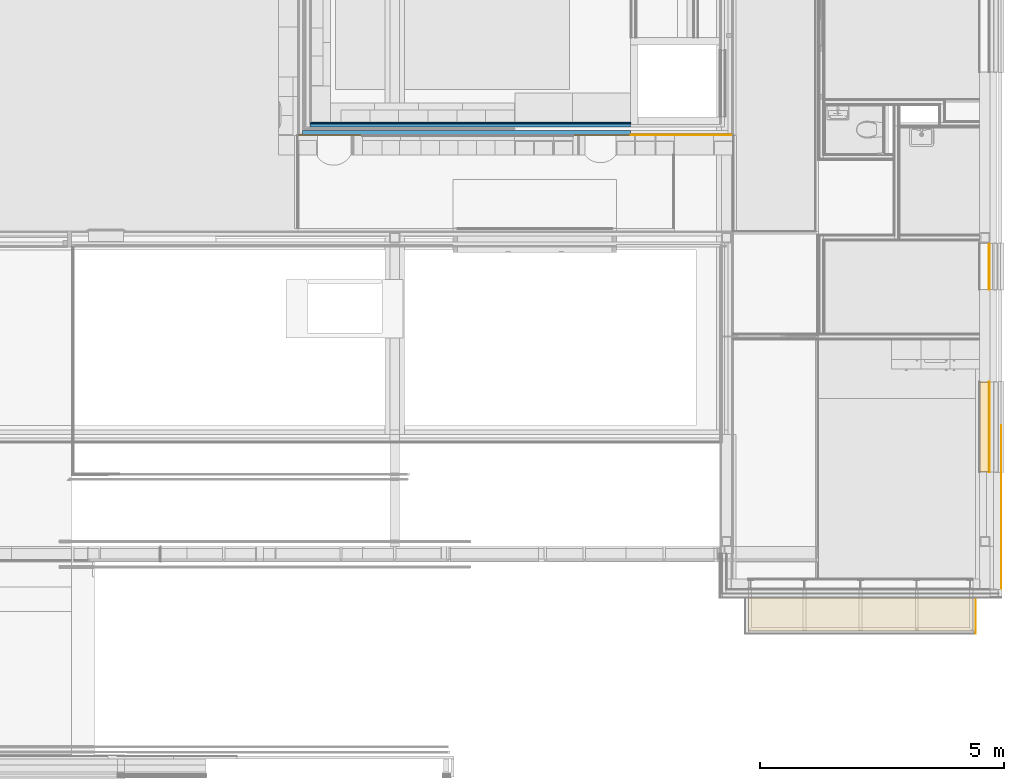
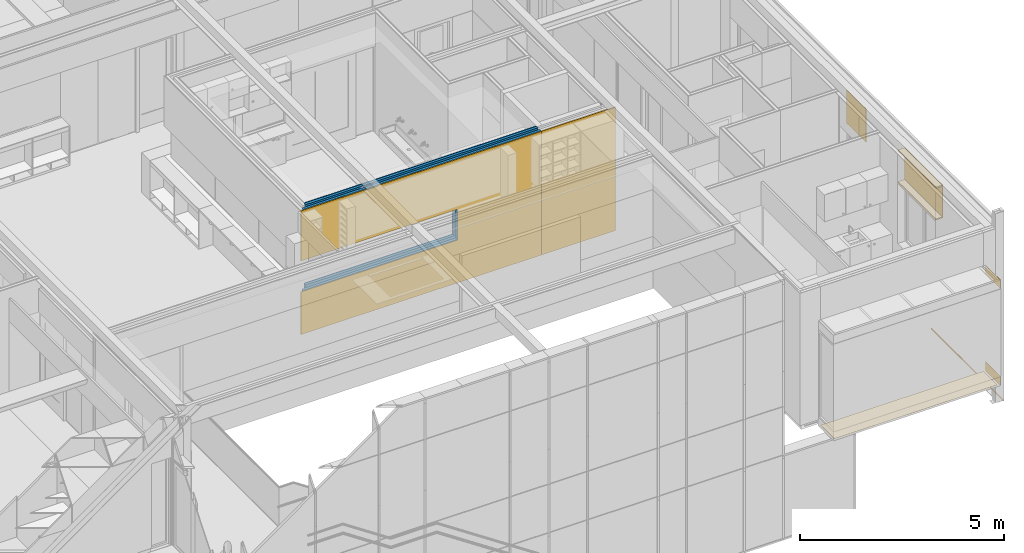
# One storey, part 103 of 137: 9 coverings, 4 building element parts, 4 openings, 7 elements without a shape of their own.
"""IFC2X3 building model written with IfcOpenShell, lengths in millimetres."""

import ifcopenshell
import ifcopenshell.guid

model = None  # the IFC model being written
_history = None  # IfcOwnerHistory: only IFC2X3 demands one
_inside = {}  # id of a spatial element -> (the spatial element, [elements in it])
_under = {}  # id of a project, library or spatial element -> (it, [spatial elements below it])
_declared = {}  # id of a project -> (the project, [libraries it declares])
_typed = {}  # id of a type object -> (the type object, [elements of that type])
_made_of = {}  # id of a material, layer set ... -> (it, [elements and type objects made of it])


def new_model(schema):
    """Start an empty IFC model of exactly this schema.

    Asked for "IFC4X3", IfcOpenShell would pick the latest addendum, in which some entities
    have other attributes; the version numbers below select the first issue.
    IFC2X3 requires an IfcOwnerHistory on every rooted entity: one is made here for all.
    """
    global model, _history
    if schema == "IFC4X3":
        model = ifcopenshell.file(schema_version=(4, 3, 0, 0))
    else:
        model = ifcopenshell.file(schema=schema)
    _inside.clear()
    _under.clear()
    _declared.clear()
    _typed.clear()
    _made_of.clear()
    _history = None
    if model.schema == "IFC2X3":
        org = make("IfcOrganization", Name="unknown")
        user = make(
            "IfcPersonAndOrganization",
            ThePerson=make("IfcPerson", FamilyName="unknown"),
            TheOrganization=org,
        )
        app = make(
            "IfcApplication",
            ApplicationDeveloper=org,
            Version="unknown",
            ApplicationFullName="unknown",
            ApplicationIdentifier="unknown",
        )
        _history = make(
            "IfcOwnerHistory",
            OwningUser=user,
            OwningApplication=app,
            ChangeAction="ADDED",
            CreationDate=0,
        )
    return model


def make(cls, **values):
    """One entity of the class cls with the attributes given. An attribute that is None is left unset."""
    return model.create_entity(
        cls, **{name: value for name, value in values.items() if value is not None}
    )


def entity(cls, *values):
    """Any entity or typed value of the class cls, its attributes in the order of the schema. None: left unset."""
    e = model.create_entity(cls)
    for i, value in enumerate(values):
        if value is not None:
            e[i] = value
    return e


def rooted(cls, **values):
    """An entity with a GlobalId (a new one), such as an element, a storey or a relation."""
    return make(cls, GlobalId=ifcopenshell.guid.new(), OwnerHistory=_history, **values)


def si_unit(unit_type, name, prefix=None):
    """IfcSIUnit, for example si_unit("LENGTHUNIT", "METRE", prefix="MILLI")."""
    return make("IfcSIUnit", UnitType=unit_type, Prefix=prefix, Name=name)


def converted_unit(unit_type, name, factor, base, dimensions=None, offset=None):
    """IfcConversionBasedUnit, such as the inch: factor (a typed value) times the base unit."""
    return make(
        "IfcConversionBasedUnit"
        if offset is None
        else "IfcConversionBasedUnitWithOffset",
        ConversionOffset=offset,
        Dimensions=None
        if dimensions is None
        else entity("IfcDimensionalExponents", *dimensions),
        UnitType=unit_type,
        Name=name,
        ConversionFactor=make(
            "IfcMeasureWithUnit", ValueComponent=factor, UnitComponent=base
        ),
    )


def derived_unit(unit_type, elements):
    """IfcDerivedUnit: a product of units, each with its exponent."""
    return make(
        "IfcDerivedUnit",
        Elements=[
            make("IfcDerivedUnitElement", Unit=unit, Exponent=power)
            for unit, power in elements
        ],
        UnitType=unit_type,
    )


def money_unit(currency):
    """IfcMonetaryUnit."""
    return make("IfcMonetaryUnit", Currency=currency)


def assignment(units):
    """IfcUnitAssignment: the units of a project."""
    return None if units is None else make("IfcUnitAssignment", Units=units)


def point(xyz):
    """IfcCartesianPoint."""
    return None if xyz is None else make("IfcCartesianPoint", Coordinates=xyz)


def direction(xyz):
    """IfcDirection."""
    return None if xyz is None else make("IfcDirection", DirectionRatios=xyz)


def frame(location, z_axis=None, x_axis=None):
    """IfcAxis2Placement3D, a coordinate frame: its origin and axes. An axis left out is left unset."""
    return make(
        "IfcAxis2Placement3D",
        Location=point(location),
        Axis=direction(z_axis),
        RefDirection=direction(x_axis),
    )


def origin_with_axes():
    """The frame at (0, 0, 0) with the z axis (0, 0, 1) and the x axis (1, 0, 0) written out."""
    return frame((0.0, 0.0, 0.0), z_axis=(0.0, 0.0, 1.0), x_axis=(1.0, 0.0, 0.0))


def place(relative_to, where):
    """IfcLocalPlacement: puts the frame where relative to a parent placement (None: the world)."""
    return make(
        "IfcLocalPlacement", PlacementRelTo=relative_to, RelativePlacement=where
    )


def context(
    kind, dimensions, precision=None, world=None, true_north=None, identifier=None
):
    """IfcGeometricRepresentationContext, for example the 3D "Model" context."""
    return make(
        "IfcGeometricRepresentationContext",
        ContextIdentifier=identifier,
        ContextType=kind,
        CoordinateSpaceDimension=dimensions,
        Precision=precision,
        WorldCoordinateSystem=world,
        TrueNorth=true_north,
    )


def subcontext(parent, identifier, kind, view, scale=None):
    """IfcGeometricRepresentationSubContext, for example "Body" below "Model"."""
    return make(
        "IfcGeometricRepresentationSubContext",
        ContextIdentifier=identifier,
        ContextType=kind,
        ParentContext=parent,
        TargetScale=scale,
        TargetView=view,
    )


def project(units=None, contexts=None):
    """IfcProject with its units and contexts."""
    return rooted(
        "IfcProject",
        Name="project",
        RepresentationContexts=contexts,
        UnitsInContext=assignment(units),
    )


def spatial(cls, under=None, at=None, **own):
    """A site, building, storey or space (cls), placed at a placement, below another one or the project."""
    s = rooted(cls, ObjectPlacement=at, **own)
    if under is not None:
        _under.setdefault(under.id(), (under, []))[1].append(s)
    return s


def faces_of(points, faces, orient=None, outer=None):
    """IfcFace entities. A face is a list of loops; a loop is a list of indices into points, from 0.

    orient and outer hold one flag for each loop. By default every Orientation is true, the
    first loop of a face is its IfcFaceOuterBound and the others are IfcFaceBound.
    """
    made = []
    for i, loops in enumerate(faces):
        bounds = []
        for j, loop in enumerate(loops):
            is_outer = j == 0 if outer is None else outer[i][j]
            bounds.append(
                make(
                    "IfcFaceOuterBound" if is_outer else "IfcFaceBound",
                    Bound=make("IfcPolyLoop", Polygon=[points[k] for k in loop]),
                    Orientation=True if orient is None else orient[i][j],
                )
            )
        made.append(make("IfcFace", Bounds=bounds))
    return made


def faceted_brep(points, faces, orient=None, outer=None, voids=None):
    """IfcFacetedBrep: a solid bounded by flat faces; with voids (closed shells), ...WithVoids."""
    shared = [point(p) for p in points]
    hull = make("IfcClosedShell", CfsFaces=faces_of(shared, faces, orient, outer))
    if voids is None:
        return make("IfcFacetedBrep", Outer=hull)
    return make(
        "IfcFacetedBrepWithVoids",
        Outer=hull,
        Voids=[
            make(cls, CfsFaces=faces_of(shared, fs, o, b)) for cls, fs, o, b in voids
        ],
    )


def shape(context_of_items, identifier, shape_type, items):
    """IfcShapeRepresentation: the items that make up one representation, for example the "Body"."""
    return make(
        "IfcShapeRepresentation",
        ContextOfItems=context_of_items,
        RepresentationIdentifier=identifier,
        RepresentationType=shape_type,
        Items=items,
    )


def material(Name=None, Category=None):
    """IfcMaterial."""
    return make("IfcMaterial", Name=Name, Category=Category)


def made_of(thing, what):
    """Note that an element or type object is made of a material, layer set ...; save() writes the relation."""
    if what is not None:
        _made_of.setdefault(what.id(), (what, []))[1].append(thing)
    return thing


def type_object(cls, material=None, **own):
    """A type object (cls), such as IfcWallType, which elements share."""
    return made_of(rooted(cls, **own), material)


def element(
    cls,
    number,
    at=None,
    inside=None,
    cuts=None,
    type_object=None,
    material=None,
    context=None,
    identifier="Body",
    shape_type=None,
    held_by="IfcProductDefinitionShape",
    body=None,
    shapes=None,
    **own,
):
    """One element of the class cls, such as IfcWall. Its Tag is "e" and its number.

    at: its placement. inside: the storey or other place that contains it. cuts: it is an
    opening in that element (IfcRelVoidsElement). A single representation is given by context,
    identifier, shape_type and body (its items); several are given by shapes. held_by: the class
    of the entity that holds the representations. save() writes the other relations.
    """
    e = rooted(cls, Tag="e%d" % number, ObjectPlacement=at, **own)
    if body is not None:
        shapes = [shape(context, identifier, shape_type, body)]
    if shapes is not None:
        e.Representation = make(held_by, Representations=shapes)
    if inside is not None:
        _inside.setdefault(inside.id(), (inside, []))[1].append(e)
    if cuts is not None:
        rooted(
            "IfcRelVoidsElement", RelatingBuildingElement=cuts, RelatedOpeningElement=e
        )
    if type_object is not None:
        _typed.setdefault(type_object.id(), (type_object, []))[1].append(e)
    return made_of(e, material)


def aggregate(whole, parts):
    """IfcRelAggregates: a whole, such as a stair, and the parts it consists of."""
    return rooted("IfcRelAggregates", RelatingObject=whole, RelatedObjects=parts)


def save(model, path):
    """Write the relations noted so far, then the file.

    IfcRelAggregates (storeys below a building ...), IfcRelContainedInSpatialStructure (elements
    in a storey), IfcRelDefinesByType, IfcRelAssociatesMaterial and IfcRelDeclares: one each for
    every whole, place, type object, material and project.
    """
    for whole, parts in _under.values():
        aggregate(whole, parts)
    for where, things in _inside.values():
        rooted(
            "IfcRelContainedInSpatialStructure",
            RelatedElements=things,
            RelatingStructure=where,
        )
    for kind, things in _typed.values():
        rooted("IfcRelDefinesByType", RelatedObjects=things, RelatingType=kind)
    for what, things in _made_of.values():
        rooted("IfcRelAssociatesMaterial", RelatedObjects=things, RelatingMaterial=what)
    for by, libraries in _declared.values():
        rooted("IfcRelDeclares", RelatingContext=by, RelatedDefinitions=libraries)
    model.write(path)


model = new_model("IFC2X3")

# Units and contexts
model_context = context("Model", 3, precision=0.01, world=origin_with_axes(), true_north=direction((0.0, 1.0)))
body_context = subcontext(model_context, "Body", "Model", "MODEL_VIEW")
ifc_project = project(units=[si_unit("LENGTHUNIT", "METRE", prefix="MILLI"), si_unit("AREAUNIT", "SQUARE_METRE"), si_unit("VOLUMEUNIT", "CUBIC_METRE"), converted_unit("PLANEANGLEUNIT", "DEGREE", entity("IfcPlaneAngleMeasure", 0.0174532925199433), si_unit("PLANEANGLEUNIT", "RADIAN"), dimensions=[0, 0, 0, 0, 0, 0, 0]), money_unit("EUR"), converted_unit("TIMEUNIT", "Year", entity("IfcTimeMeasure", 31556926.0), si_unit("TIMEUNIT", "SECOND"), dimensions=[0, 0, 1, 0, 0, 0, 0]), si_unit("MASSUNIT", "GRAM", prefix="KILO"), si_unit("THERMODYNAMICTEMPERATUREUNIT", "DEGREE_CELSIUS"), si_unit("LUMINOUSINTENSITYUNIT", "LUMEN"), si_unit("ENERGYUNIT", "JOULE", prefix="MEGA"), derived_unit("THERMALCONDUCTANCEUNIT", [(si_unit("POWERUNIT", "WATT"), 1), (si_unit("LENGTHUNIT", "METRE"), -1), (si_unit("THERMODYNAMICTEMPERATUREUNIT", "KELVIN"), -1)]), derived_unit("SPECIFICHEATCAPACITYUNIT", [(si_unit("ENERGYUNIT", "JOULE"), 1), (si_unit("MASSUNIT", "GRAM", prefix="KILO"), -1), (si_unit("THERMODYNAMICTEMPERATUREUNIT", "KELVIN"), -1)]), derived_unit("MASSDENSITYUNIT", [(si_unit("MASSUNIT", "GRAM", prefix="KILO"), 1), (si_unit("VOLUMEUNIT", "CUBIC_METRE"), -1)])], contexts=[model_context])

# Site, building, storey
site_placement = place(None, origin_with_axes())
site = spatial("IfcSite", under=ifc_project, at=site_placement, Name="Site", CompositionType="ELEMENT")
building_placement = place(site_placement, origin_with_axes())
building = spatial("IfcBuilding", under=site, at=building_placement, Name="Naam gebouw", CompositionType="ELEMENT")
storey_placement = place(building_placement, frame((0.0, 0.0, 3960.0), z_axis=(0.0, 0.0, 1.0), x_axis=(1.0, 0.0, 0.0)))
storey = spatial("IfcBuildingStorey", under=building, at=storey_placement, Name="1e verdieping", CompositionType="ELEMENT", Elevation=3960.0)

# Proxy, covering
building_element_proxy_type = type_object("IfcBuildingElementProxyType", Name="22 Metal stud 270 oregon pine 270", PredefinedType="NOTDEFINED")
proxy_1_placement = place(storey_placement, frame((24499.99903999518, 13039.99778166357, -100.0000000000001), z_axis=(0.0, 0.0, 1.0), x_axis=(-1.0, 0.0, 0.0)))
proxy_1 = element("IfcBuildingElementProxy", 1, at=proxy_1_placement, inside=storey, type_object=building_element_proxy_type, Name="_Wand-x")
ifc_material_1 = material(Name="Hout - Multiplex Oregon Pine")
covering_1_placement = place(proxy_1_placement, origin_with_axes())
covering_1 = element("IfcCovering", 2, at=covering_1_placement, material=ifc_material_1, Name="Hout - Multiplex Oregon Pine", PredefinedType="NOTDEFINED", context=body_context, shape_type="Brep", body=[
    faceted_brep([(94.99999999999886, 122.5000000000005, 3700.0), (94.99999999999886, 134.9999999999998, 3700.0), (-94.99999999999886, 134.9999999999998, 3700.0), (-94.99999999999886, 122.5000000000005, 3700.0), (94.99999999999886, 122.5000000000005, 3695.000029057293), (94.99999999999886, 134.9999999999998, 3695.000029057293), (-94.99999999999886, 134.9999999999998, 3695.000029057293), (-94.99999999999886, 122.5000000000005, 3695.000029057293)], [[[0, 1, 2, 3]], [[1, 0, 4, 5]], [[6, 2, 1, 5]], [[7, 3, 2, 6]], [[4, 0, 3, 7]], [[4, 7, 6, 5]]]),
    faceted_brep([(199.9999999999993, 122.5000000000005, 3695.000029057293), (199.9999999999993, 122.5000000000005, 3685.000029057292), (-122.4999999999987, 122.5000000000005, 3685.000029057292), (-122.4999999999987, 122.5000000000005, 0.0), (1964.999999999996, 122.5000000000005, 0.0), (1964.999999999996, 122.5000000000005, 3700.0), (100.9999999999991, 122.5000000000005, 3700.0), (100.9999999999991, 122.5000000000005, 3695.000029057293), (199.9999999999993, 134.9999999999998, 3695.000029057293), (199.9999999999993, 134.9999999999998, 3685.000029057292), (-122.4999999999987, 134.9999999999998, 3685.000029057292), (-122.4999999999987, 134.9999999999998, 0.0), (1964.999999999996, 134.9999999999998, 0.0), (1964.999999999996, 134.9999999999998, 3700.0), (100.9999999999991, 134.9999999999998, 3700.0), (100.9999999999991, 134.9999999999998, 3695.000029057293)], [[[0, 1, 2, 3, 4, 5, 6, 7]], [[1, 0, 8, 9]], [[10, 2, 1, 9]], [[2, 10, 11, 3]], [[11, 12, 4, 3]], [[13, 5, 4, 12]], [[14, 6, 5, 13]], [[7, 6, 14, 15]], [[0, 7, 15, 8]], [[15, 14, 13, 12, 11, 10, 9, 8]]]),
    faceted_brep([(-122.4999999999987, 134.9999999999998, 3695.000029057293), (-122.4999999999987, 122.5000000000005, 3695.000029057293), (-122.4999999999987, 122.5000000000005, 3700.0), (-122.4999999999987, 134.9999999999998, 3700.0), (-100.9999999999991, 122.5000000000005, 3695.000029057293), (-100.9999999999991, 134.9999999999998, 3695.000029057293), (-100.9999966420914, 122.5000000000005, 3700.0), (-100.9999966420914, 134.9999999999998, 3700.0)], [[[0, 1, 2, 3]], [[4, 1, 0, 5]], [[4, 6, 2, 1]], [[6, 7, 3, 2]], [[5, 0, 3, 7]], [[7, 6, 4, 5]]]),
])
aggregate(proxy_1, [covering_1])

# Proxy, openings, covering
proxy_2_placement = place(storey_placement, frame((22534.99903999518, 13039.99778166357, -100.0000000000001), z_axis=(0.0, 0.0, 1.0), x_axis=(-1.0, 0.0, 0.0)))
proxy_2 = element("IfcBuildingElementProxy", 3, at=proxy_2_placement, inside=storey, type_object=building_element_proxy_type, Name="_Wand-x")
opening_1_placement = place(proxy_2_placement, frame((5954.996010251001, 0.0, 1300.0), z_axis=(0.0, 0.0, 1.0), x_axis=(1.0, 0.0, 0.0)))
element("IfcOpeningElement", 4, at=opening_1_placement, cuts=proxy_2, Name="_D.04", context=body_context, shape_type="Brep", body=[
    faceted_brep([(-720.003588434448, 9.999999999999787, 0.0), (-720.003588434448, 9.999999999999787, 900.0000000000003), (-720.003588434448, 135.9999999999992, 900.0000000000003), (-720.003588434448, 135.9999999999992, 0.0), (-720.003588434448, -135.9999999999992, 0.0), (-720.003588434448, -135.9999999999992, 900.0000000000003), (865.0035884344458, 135.0000154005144, 900.0000000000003), (865.0035884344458, 135.9999999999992, 900.0000000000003), (594.0035884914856, -135.9999999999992, 900.0000000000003), (865.0035884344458, 135.9999999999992, 0.0), (865.0035884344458, 135.0000154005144, 0.0), (594.0035884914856, -135.9999999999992, 0.0)], [[[0, 1, 2, 3]], [[1, 0, 4, 5]], [[6, 7, 2, 1, 5, 8]], [[7, 9, 3, 2]], [[0, 3, 9, 10, 11, 4]], [[5, 4, 11, 8]], [[10, 9, 7, 6]], [[8, 11, 10, 6]]]),
])
opening_2_placement = place(proxy_2_placement, frame((4519.992421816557, 0.0, 1300.0), z_axis=(0.0, 0.0, 1.0), x_axis=(1.0, 0.0, 0.0)))
element("IfcOpeningElement", 5, at=opening_2_placement, cuts=proxy_2, Name="_D.02", context=body_context, shape_type="Brep", body=[
    faceted_brep([(-714.9999999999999, 9.999999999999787, 0.0), (-714.9999999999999, 9.999999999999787, 900.0000000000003), (-714.9999999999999, 135.9999999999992, 900.0000000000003), (-714.9999999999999, 135.9999999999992, 0.0), (-714.9999999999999, -135.9999999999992, 0.0), (-714.9999999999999, -135.9999999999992, 900.0000000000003), (714.9999999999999, 9.999999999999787, 900.0000000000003), (714.9999999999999, 135.9999999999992, 900.0000000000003), (714.9999999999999, -135.9999999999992, 900.0000000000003), (714.9999999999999, 135.9999999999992, 0.0), (714.9999999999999, 9.999999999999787, 0.0), (714.9999999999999, -135.9999999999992, 0.0)], [[[0, 1, 2, 3]], [[1, 0, 4, 5]], [[6, 7, 2, 1, 5, 8]], [[7, 9, 3, 2]], [[0, 3, 9, 10, 11, 4]], [[5, 4, 11, 8]], [[6, 10, 9, 7]], [[10, 6, 8, 11]]]),
])
opening_3_placement = place(proxy_2_placement, frame((3089.992421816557, 0.0, 1300.0), z_axis=(0.0, 0.0, 1.0), x_axis=(1.0, 0.0, 0.0)))
element("IfcOpeningElement", 6, at=opening_3_placement, cuts=proxy_2, Name="_D.02", context=body_context, shape_type="Brep", body=[
    faceted_brep([(-714.9999999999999, 9.999999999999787, 0.0), (-714.9999999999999, 9.999999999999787, 900.0000000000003), (-714.9999999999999, 135.9999999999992, 900.0000000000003), (-714.9999999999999, 135.9999999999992, 0.0), (-714.9999999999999, -135.9999999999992, 0.0), (-714.9999999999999, -135.9999999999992, 900.0000000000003), (714.9999999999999, 9.999999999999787, 900.0000000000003), (714.9999999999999, 135.9999999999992, 900.0000000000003), (714.9999999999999, -135.9999999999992, 900.0000000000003), (714.9999999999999, 135.9999999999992, 0.0), (714.9999999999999, 9.999999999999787, 0.0), (714.9999999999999, -135.9999999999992, 0.0)], [[[0, 1, 2, 3]], [[1, 0, 4, 5]], [[6, 7, 2, 1, 5, 8]], [[7, 9, 3, 2]], [[0, 3, 9, 10, 11, 4]], [[5, 4, 11, 8]], [[6, 10, 9, 7]], [[10, 6, 8, 11]]]),
])
covering_2_placement = place(proxy_2_placement, origin_with_axes())
covering_2 = element("IfcCovering", 7, at=covering_2_placement, material=ifc_material_1, Name="Hout - Multiplex Oregon Pine", PredefinedType="NOTDEFINED", context=body_context, shape_type="Brep", body=[
    faceted_brep([(6807.499582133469, 122.500001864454, 1280.000000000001), (2374.992421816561, 122.5000000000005, 1280.000000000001), (2374.992421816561, 122.5000000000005, 1300.0), (2374.992421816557, 122.5000000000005, 2200.0), (6807.499582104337, 122.5000018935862, 2200.0), (6807.499583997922, 122.5000000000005, 3700.0), (4935.999615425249, 122.5000000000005, 3700.0), (4935.999615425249, 122.5000000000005, 3695.000029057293), (5034.999615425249, 122.5000000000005, 3695.000029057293), (5034.999615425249, 122.5000000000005, 3675.000029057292), (4634.999615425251, 122.5000000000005, 3675.000029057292), (4634.999615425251, 122.5000000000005, 3695.000029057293), (4733.999615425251, 122.5000000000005, 3695.000029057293), (4733.999615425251, 122.5000000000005, 3700.0), (0.0, 122.5000000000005, 3700.0), (0.0, 122.5000000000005, 0.0), (6807.499583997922, 122.4999999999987, 0.0), (6807.499583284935, 134.9979704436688, 1280.000000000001), (2374.992421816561, 134.9979704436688, 1280.000000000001), (2374.992421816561, 134.9979704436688, 1300.0), (2374.992421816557, 134.9999999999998, 2200.0), (6807.499583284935, 135.0000193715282, 2200.0), (6807.499583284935, 134.9999999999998, 3700.0), (4935.999615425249, 134.9999999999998, 3700.0), (4935.999615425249, 134.9999999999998, 3695.000029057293), (5034.999615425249, 134.9999999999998, 3695.000029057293), (5034.999615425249, 134.9999999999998, 3675.000029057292), (4634.999615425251, 134.9999999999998, 3675.000029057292), (4634.999615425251, 134.9999999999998, 3695.000029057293), (4733.999615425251, 134.9999999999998, 3695.000029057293), (4733.999615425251, 134.9999999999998, 3700.0), (0.0, 134.9999999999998, 3700.0), (0.0, 134.9999999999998, 0.0), (6807.499583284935, 134.9999999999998, 0.0)], [[[0, 1, 2, 3, 4, 5, 6, 7, 8, 9, 10, 11, 12, 13, 14, 15, 16]], [[1, 0, 17, 18]], [[2, 1, 18, 19, 20, 3]], [[3, 20, 21, 4]], [[5, 4, 21, 22]], [[23, 6, 5, 22]], [[7, 6, 23, 24]], [[8, 7, 24, 25]], [[9, 8, 25, 26]], [[10, 9, 26, 27]], [[11, 10, 27, 28]], [[12, 11, 28, 29]], [[30, 13, 12, 29]], [[13, 30, 31, 14]], [[15, 14, 31, 32]], [[33, 16, 15, 32]], [[17, 0, 16, 33]], [[18, 17, 33, 32, 31, 30, 29, 28, 27, 26, 25, 24, 23, 22, 21, 20, 19]]]),
    faceted_brep([(4929.999615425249, 122.5000000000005, 3700.0), (4929.999615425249, 134.9999999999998, 3700.0), (4739.999615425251, 134.9999999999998, 3700.0), (4739.999615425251, 122.5000000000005, 3700.0), (4929.999615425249, 122.5000000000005, 3695.000029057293), (4929.999615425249, 134.9999999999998, 3695.000029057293), (4739.999615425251, 134.9999999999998, 3695.000029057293), (4739.999615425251, 122.5000000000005, 3695.000029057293)], [[[0, 1, 2, 3]], [[1, 0, 4, 5]], [[6, 2, 1, 5]], [[7, 3, 2, 6]], [[4, 0, 3, 7]], [[4, 7, 6, 5]]]),
])

# Wall, opening, covering
wall_type = type_object("IfcWallType", Name="21 Zetwerk op Isolatie 63", PredefinedType="NOTDEFINED")
wall_placement = place(storey_placement, frame((29550.00086055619, 2749.999999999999, -283.0000000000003), z_axis=(0.0, 0.0, 1.0), x_axis=(-1.01241926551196e-06, 0.9999999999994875, 0.0)))
wall = element("IfcWall", 8, at=wall_placement, inside=storey, type_object=wall_type, Name="21_Wand-x")
opening_4_placement = place(wall_placement, frame((331.9998607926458, 0.0, 273.0000000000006), z_axis=(0.0, 0.0, 1.0), x_axis=(1.0, 0.0, 0.0)))
element("IfcOpeningElement", 9, at=opening_4_placement, cuts=wall, Name="_Merk BK3", context=body_context, shape_type="Brep", body=[
    faceted_brep([(331.9999610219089, 1.000860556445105, 2620.0), (331.9999610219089, 1.000860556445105, 0.0), (-330.9989992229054, 1.000860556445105, 0.0), (-330.9989992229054, 1.000860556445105, 2620.0), (331.9999610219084, -64.00086055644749, 2620.0), (331.9999610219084, -64.00086055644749, 0.0), (-394.9999610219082, -64.00086055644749, 0.0), (-394.9999610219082, -63.00003644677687, 0.0), (-394.9999610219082, -63.00003644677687, 2620.0), (-394.9999610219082, -64.00086055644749, 2620.0)], [[[0, 1, 2, 3]], [[4, 5, 1, 0]], [[5, 6, 7, 2, 1]], [[2, 7, 8, 3]], [[9, 4, 0, 3, 8]], [[6, 5, 4, 9]], [[6, 9, 8, 7]]]),
])
ifc_material_2 = material(Name="Metaal - Aluminium")
covering_3_placement = place(wall_placement, origin_with_axes())
covering_3 = element("IfcCovering", 10, at=covering_3_placement, material=ifc_material_2, Name="Metaal - Aluminium", PredefinedType="NOTDEFINED", context=body_context, shape_type="Brep", body=[
    faceted_brep([(663.9998218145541, -63.00000000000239, 273.0000000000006), (-60.00006378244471, -63.00000000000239, 273.0000000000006), (-60.00006378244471, -63.00000000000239, 0.0), (681.9999362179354, -62.99999999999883, 0.0), (681.9999943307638, -63.00000000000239, 3153.0), (-60.00006378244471, -63.00000000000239, 3153.000000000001), (-60.00006378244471, -63.00000000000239, 2893.000000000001), (663.9998218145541, -63.00000000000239, 2893.000000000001), (663.9998218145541, -60.00000000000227, 273.0000000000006), (-60.00006074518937, -60.00000000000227, 273.0000000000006), (-60.00006074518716, -60.00000000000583, 0.0), (681.9999392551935, -60.00000000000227, 0.0), (681.9999979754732, -60.00000000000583, 3153.0), (-60.00006074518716, -60.00000000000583, 3153.000000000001), (-60.00006074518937, -60.00000000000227, 2893.000000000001), (663.9998218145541, -60.00000000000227, 2893.000000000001)], [[[0, 1, 2, 3, 4, 5, 6, 7]], [[1, 0, 8, 9]], [[1, 9, 10, 2]], [[10, 11, 3, 2]], [[12, 4, 3, 11]], [[5, 4, 12, 13]], [[14, 6, 5, 13]], [[7, 6, 14, 15]], [[0, 7, 15, 8]], [[15, 14, 13, 12, 11, 10, 9, 8]]]),
])
aggregate(wall, [covering_3])

# Beam, covering
beam_type_1 = type_object("IfcBeamType", Name="31 HSB boven kozijnen 214 x 1000", PredefinedType="BEAM")
beam_1_placement = place(storey_placement, frame((29685.99999999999, 10695.00011055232, 2600.000000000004), z_axis=(0.0, 0.0, 1.0), x_axis=(-1.0, 0.0, 0.0)))
beam_1 = element("IfcBeam", 11, at=beam_1_placement, inside=storey, type_object=beam_type_1, Name="28_Balk-x", ObjectType="BEAM")
ifc_material_3 = material(Name="Hout - Multiplex")
covering_4_placement = place(beam_1_placement, origin_with_axes())
covering_4 = element("IfcCovering", 12, at=covering_4_placement, material=ifc_material_3, Name="Hout - Multiplex", PredefinedType="NOTDEFINED", context=body_context, shape_type="Brep", body=[
    faceted_brep([(-214.0000025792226, 950.000000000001, 999.9999999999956), (-214.0000025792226, 950.000000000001, 11.99999999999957), (-214.0000025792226, 0.0, 11.99999999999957), (-214.0000025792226, 0.0, 999.9999999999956), (-196.000001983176, 950.000000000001, 999.9999999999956), (-196.000001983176, 950.000000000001, 11.99999999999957), (-196.000001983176, 0.0, 11.99999999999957), (-196.000001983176, 0.0, 999.9999999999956)], [[[0, 1, 2, 3]], [[0, 4, 5, 1]], [[1, 5, 6, 2]], [[3, 2, 6, 7]], [[4, 0, 3, 7]], [[5, 4, 7, 6]]]),
])
aggregate(beam_1, [covering_4])

# Beam, coverings
beam_2_placement = place(storey_placement, frame((29685.99999999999, 7855.997781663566, 2600.000000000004), z_axis=(0.0, 0.0, 1.0), x_axis=(-1.0, 0.0, 0.0)))
beam_2 = element("IfcBeam", 13, at=beam_2_placement, inside=storey, type_object=beam_type_1, Name="28_Balk-x", ObjectType="BEAM")
ifc_material_4 = material(Name="Hout - Vloer")
covering_5_placement = place(beam_2_placement, origin_with_axes())
covering_5 = element("IfcCovering", 14, at=covering_5_placement, material=ifc_material_4, Name="Hout - Vloer", PredefinedType="NOTDEFINED", context=body_context, shape_type="Brep", body=[
    faceted_brep([(-196.000001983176, 1850.000000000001, 999.9999999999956), (-196.000001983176, 1850.000000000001, 961.9999910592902), (-196.000001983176, 0.0, 961.9999910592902), (-196.000001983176, 0.0, 999.9999999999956), (-11.99999006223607, 1850.000000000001, 999.9999999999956), (-11.99999006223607, 1850.000000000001, 962.0000059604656), (-11.99999006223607, 0.0, 962.0000059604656), (-11.99999006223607, 0.0, 999.9999999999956)], [[[0, 1, 2, 3]], [[0, 4, 5, 1]], [[1, 5, 6, 2]], [[3, 2, 6, 7]], [[4, 0, 3, 7]], [[5, 4, 7, 6]]]),
])
covering_6_placement = place(beam_2_placement, origin_with_axes())
covering_6 = element("IfcCovering", 15, at=covering_6_placement, material=ifc_material_4, Name="Hout - Vloer", PredefinedType="NOTDEFINED", context=body_context, shape_type="Brep", body=[
    faceted_brep([(-196.0000083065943, 1850.000000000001, 49.99999999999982), (-196.0000083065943, 1850.000000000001, 12.00000596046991), (-196.0000083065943, 0.0, 12.00000596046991), (-196.0000083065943, 0.0, 49.99999999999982), (-11.9999963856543, 1850.000000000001, 49.99999999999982), (-11.9999963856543, 1850.000000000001, 12.00000596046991), (-11.9999963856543, 0.0, 12.00000596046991), (-11.9999963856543, 0.0, 49.99999999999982)], [[[0, 1, 2, 3]], [[0, 4, 5, 1]], [[1, 5, 6, 2]], [[3, 2, 6, 7]], [[4, 0, 3, 7]], [[5, 4, 7, 6]]]),
])
covering_7_placement = place(beam_2_placement, origin_with_axes())
covering_7 = element("IfcCovering", 16, at=covering_7_placement, material=ifc_material_3, Name="Hout - Multiplex", PredefinedType="NOTDEFINED", context=body_context, shape_type="Brep", body=[
    faceted_brep([(-214.0000025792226, 1850.000000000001, 999.9999999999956), (-214.0000025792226, 1850.000000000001, 11.99999999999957), (-214.0000025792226, 0.0, 11.99999999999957), (-214.0000025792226, 0.0, 999.9999999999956), (-196.000001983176, 1850.000000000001, 999.9999999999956), (-196.000001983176, 1850.000000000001, 11.99999999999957), (-196.000001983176, 0.0, 11.99999999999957), (-196.000001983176, 0.0, 999.9999999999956)], [[[0, 1, 2, 3]], [[0, 4, 5, 1]], [[1, 5, 6, 2]], [[3, 2, 6, 7]], [[4, 0, 3, 7]], [[5, 4, 7, 6]]]),
])
aggregate(beam_2, [covering_5, covering_6, covering_7])

# Slab, covering
slab_type = type_object("IfcSlabType", Name="23 Zetwerk op Isolatie 63", PredefinedType="NOTDEFINED")
slab_placement = place(storey_placement, frame((24886.99904081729, 3424.0, -220.0000000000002), z_axis=(0.0, 0.0, 1.0), x_axis=(1.0, 0.0, 0.0)))
slab = element("IfcSlab", 17, at=slab_placement, inside=storey, type_object=slab_type, Name="_Vloer-x", PredefinedType="NOTDEFINED")
covering_8_placement = place(slab_placement, origin_with_axes())
covering_8 = element("IfcCovering", 18, at=covering_8_placement, material=ifc_material_2, Name="Metaal - Aluminium", PredefinedType="NOTDEFINED", context=body_context, shape_type="Brep", body=[
    faceted_brep([(62.9999986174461, 0.0, -63.00000000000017), (63.0000008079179, 0.0, -60.00000000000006), (4663.001135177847, 0.0, -60.00000000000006), (4663.001137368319, 0.0, -63.00000000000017), (63.0000008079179, -673.9999999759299, -60.00000000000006), (62.9999986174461, -674.0000000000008, -63.00000000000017), (4663.001819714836, -674.0000000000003, -60.00000000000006), (4663.001819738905, -674.0000000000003, -63.00000000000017)], [[[0, 1, 2, 3]], [[4, 1, 0, 5]], [[1, 4, 6, 2]], [[2, 6, 7, 3]], [[5, 0, 3, 7]], [[4, 5, 7, 6]]]),
])
aggregate(slab, [covering_8])

# Beam, covering
beam_type_2 = type_object("IfcBeamType", Name="45 Afwerking Geveldrager 305 x 30", PredefinedType="BEAM")
beam_3_placement = place(storey_placement, frame((30149.99999999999, 3453.999999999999, -1379.999999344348), z_axis=(0.0, 0.0, 1.0), x_axis=(1.0, 0.0, 0.0)))
beam_3 = element("IfcBeam", 19, at=beam_3_placement, inside=storey, type_object=beam_type_2, Name="_Regenwaterafvoer-x", ObjectType="BEAM")
covering_9_placement = place(beam_3_placement, origin_with_axes())
covering_9 = element("IfcCovering", 20, at=covering_9_placement, material=ifc_material_2, Name="Metaal - Aluminium", PredefinedType="NOTDEFINED", context=body_context, shape_type="Brep", body=[
    faceted_brep([(-17.99999039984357, 0.0, 30.00001137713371), (-17.99999039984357, 3515.997857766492, 30.00001137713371), (-17.99998837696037, 3515.997857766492, 20.00000059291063), (-17.99998837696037, 0.0, 20.00000059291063), (-15.00000000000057, 0.0, 30.00001137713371), (-15.00000000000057, 3515.997857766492, 30.00001137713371), (-15.00000000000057, 3515.997857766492, 8.172538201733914e-07), (-17.99999039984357, 3515.997857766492, 8.172538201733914e-07), (-17.99999039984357, 0.0, 8.172538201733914e-07), (-15.00000000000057, 0.0, 8.172538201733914e-07)], [[[0, 1, 2, 3]], [[4, 5, 1, 0]], [[2, 1, 5, 6, 7]], [[3, 2, 7, 8]], [[4, 0, 3, 8, 9]], [[9, 6, 5, 4]], [[8, 7, 6, 9]]]),
])
aggregate(beam_3, [covering_9])

# Building element part
ifc_material_5 = material(Name="ALG - LICHTE SCHEIDINGSWAND")
building_element_part_1_placement = place(proxy_2_placement, origin_with_axes())
building_element_part_1 = element("IfcBuildingElementPart", 21, at=building_element_part_1_placement, material=ifc_material_5, Name="ALG - LICHTE SCHEIDINGSWAND", context=body_context, shape_type="Brep", body=[
    faceted_brep([(6719.999587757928, 35.00000123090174, 1280.000000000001), (2374.992421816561, 34.99999999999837, 1280.000000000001), (2374.992421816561, 35.00000000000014, 1300.0), (2374.992421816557, 35.00000000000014, 2200.0), (6719.999587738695, 35.00000125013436, 2200.0), (6719.999588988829, 35.00000000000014, 3700.0), (4935.999615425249, 35.00000000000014, 3700.0), (4935.999615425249, 34.99999999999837, 3695.000029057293), (5034.999615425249, 34.99999999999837, 3695.000029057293), (5034.999615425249, 34.99999999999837, 3675.000029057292), (4634.999615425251, 34.99999999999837, 3675.000029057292), (4634.999615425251, 34.99999999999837, 3695.000029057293), (4733.999615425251, 34.99999999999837, 3695.000029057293), (4733.999615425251, 35.00000000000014, 3700.0), (0.0, 35.00000000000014, 3700.0), (0.0, 35.00000000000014, 0.0), (6719.999588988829, 35.00000000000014, 0.0), (6719.999584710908, 109.9999999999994, 1280.000000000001), (2374.992421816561, 109.9999999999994, 1280.000000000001), (2374.992421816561, 110.0000000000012, 1300.0), (2374.992421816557, 110.0000000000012, 2200.0), (6719.999584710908, 109.9999999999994, 2200.0), (6719.999584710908, 109.9999999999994, 3700.0), (4935.999615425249, 109.9999999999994, 3700.0), (4935.999615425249, 110.0000000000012, 3695.000029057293), (5034.999615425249, 110.0000000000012, 3695.000029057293), (5034.999615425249, 110.0000000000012, 3675.000029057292), (4634.999615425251, 110.0000000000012, 3675.000029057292), (4634.999615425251, 110.0000000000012, 3695.000029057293), (4733.999615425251, 110.0000000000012, 3695.000029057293), (4733.999615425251, 109.9999999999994, 3700.0), (0.0, 109.9999999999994, 3700.0), (0.0, 109.9999999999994, 0.0), (6719.999584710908, 109.9999999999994, 0.0)], [[[0, 1, 2, 3, 4, 5, 6, 7, 8, 9, 10, 11, 12, 13, 14, 15, 16]], [[1, 0, 17, 18]], [[2, 1, 18, 19, 20, 3]], [[20, 21, 4, 3]], [[5, 4, 21, 22]], [[23, 6, 5, 22]], [[7, 6, 23, 24]], [[8, 7, 24, 25]], [[9, 8, 25, 26]], [[10, 9, 26, 27]], [[11, 10, 27, 28]], [[12, 11, 28, 29]], [[30, 13, 12, 29]], [[13, 30, 31, 14]], [[15, 14, 31, 32]], [[33, 16, 15, 32]], [[17, 0, 16, 33]], [[18, 17, 33, 32, 31, 30, 29, 28, 27, 26, 25, 24, 23, 22, 21, 20, 19]]]),
    faceted_brep([(4929.999615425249, 35.00000000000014, 3700.0), (4929.999615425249, 109.9999999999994, 3700.0), (4739.999615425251, 109.9999999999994, 3700.0), (4739.999615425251, 35.00000000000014, 3700.0), (4929.999615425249, 34.99999999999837, 3695.000029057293), (4929.999615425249, 110.0000000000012, 3695.000029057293), (4739.999615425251, 110.0000000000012, 3695.000029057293), (4739.999615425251, 34.99999999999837, 3695.000029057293)], [[[0, 1, 2, 3]], [[1, 0, 4, 5]], [[6, 2, 1, 5]], [[7, 3, 2, 6]], [[4, 0, 3, 7]], [[4, 7, 6, 5]]]),
])

ifc_material_6 = material(Name="Gipsplaat")
building_element_part_2_placement = place(proxy_2_placement, origin_with_axes())
building_element_part_2 = element("IfcBuildingElementPart", 22, at=building_element_part_2_placement, material=ifc_material_6, Name="Gipsplaat", context=body_context, shape_type="Brep", body=[
    faceted_brep([(6549.999598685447, -134.9999999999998, 1300.0), (2374.992421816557, -134.9999999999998, 1300.0), (2374.992421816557, -134.9999999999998, 2200.0), (6549.999598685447, -134.9999999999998, 2200.0), (6549.999598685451, -134.9999999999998, 3700.0), (4935.999615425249, -134.9999999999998, 3700.0), (4935.999615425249, -134.9999999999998, 3695.000029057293), (5034.999615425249, -134.9999999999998, 3695.000029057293), (5034.999615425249, -134.9999999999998, 3675.000029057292), (4634.999615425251, -134.9999999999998, 3675.000029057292), (4634.999615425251, -134.9999999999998, 3695.000029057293), (4733.999615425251, -134.9999999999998, 3695.000029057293), (4733.999615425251, -134.9999999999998, 3700.0), (0.0, -134.9999999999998, 3700.0), (0.0, -134.9999999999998, 0.0), (6549.999598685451, -134.9999999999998, 0.0), (6549.999597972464, -122.5000000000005, 1300.0), (2374.992421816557, -122.5000000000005, 1300.0), (2374.992421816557, -122.5000000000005, 2200.0), (6549.999597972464, -122.5000000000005, 2200.0), (6549.999597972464, -122.5000000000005, 3700.0), (4935.999615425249, -122.5000000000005, 3700.0), (4935.999615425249, -122.5000000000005, 3695.000029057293), (5034.999615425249, -122.5000000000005, 3695.000029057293), (5034.999615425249, -122.5000000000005, 3675.000029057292), (4634.999615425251, -122.5000000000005, 3675.000029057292), (4634.999615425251, -122.5000000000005, 3695.000029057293), (4733.999615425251, -122.5000000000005, 3695.000029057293), (4733.999615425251, -122.5000000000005, 3700.0), (0.0, -122.5000000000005, 3700.0), (0.0, -122.5000000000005, 0.0), (6549.999597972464, -122.5000000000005, 0.0)], [[[0, 1, 2, 3, 4, 5, 6, 7, 8, 9, 10, 11, 12, 13, 14, 15]], [[16, 17, 1, 0]], [[2, 1, 17, 18]], [[3, 2, 18, 19]], [[19, 20, 4, 3]], [[4, 20, 21, 5]], [[21, 22, 6, 5]], [[22, 23, 7, 6]], [[23, 24, 8, 7]], [[24, 25, 9, 8]], [[25, 26, 10, 9]], [[26, 27, 11, 10]], [[11, 27, 28, 12]], [[29, 13, 12, 28]], [[29, 30, 14, 13]], [[14, 30, 31, 15]], [[0, 15, 31, 16]], [[22, 21, 20, 19, 18, 17, 16, 31, 30, 29, 28, 27, 26, 25, 24, 23]]]),
    faceted_brep([(4929.999615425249, -134.9999999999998, 3700.0), (4929.999615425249, -122.5000000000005, 3700.0), (4739.999615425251, -122.5000000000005, 3700.0), (4739.999615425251, -134.9999999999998, 3700.0), (4929.999615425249, -134.9999999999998, 3695.000029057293), (4929.999615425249, -122.5000000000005, 3695.000029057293), (4739.999615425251, -122.5000000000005, 3695.000029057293), (4739.999615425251, -134.9999999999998, 3695.000029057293)], [[[0, 1, 2, 3]], [[1, 0, 4, 5]], [[6, 2, 1, 5]], [[7, 3, 2, 6]], [[4, 0, 3, 7]], [[4, 7, 6, 5]]]),
])

building_element_part_3_placement = place(proxy_2_placement, origin_with_axes())
building_element_part_3 = element("IfcBuildingElementPart", 23, at=building_element_part_3_placement, material=ifc_material_6, Name="Gipsplaat", context=body_context, shape_type="Brep", body=[
    faceted_brep([(6562.499597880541, -122.4999999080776, 1300.0), (2374.992421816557, -122.5000000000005, 1300.0), (2374.992421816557, -122.5000000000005, 2200.0), (6562.499597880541, -122.4999999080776, 2200.0), (6562.499597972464, -122.5000000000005, 3700.0), (4935.999615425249, -122.5000000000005, 3700.0), (4935.999615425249, -122.5000000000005, 3695.000029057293), (5034.999615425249, -122.5000000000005, 3695.000029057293), (5034.999615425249, -122.5000000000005, 3675.000029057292), (4634.999615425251, -122.5000000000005, 3675.000029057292), (4634.999615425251, -122.5000000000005, 3695.000029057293), (4733.999615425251, -122.5000000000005, 3695.000029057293), (4733.999615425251, -122.5000000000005, 3700.0), (0.0, -122.5000000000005, 3700.0), (0.0, -122.5000000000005, 0.0), (6562.499597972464, -122.5000000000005, 0.0), (6562.499597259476, -110.0000000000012, 1300.0), (2374.992421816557, -110.0000000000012, 1300.0), (2374.992421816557, -110.0000000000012, 2200.0), (6562.499597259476, -109.9999999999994, 2200.0), (6562.499597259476, -109.9999999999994, 3700.0), (4935.999615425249, -109.9999999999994, 3700.0), (4935.999615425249, -110.0000000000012, 3695.000029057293), (5034.999615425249, -110.0000000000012, 3695.000029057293), (5034.999615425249, -110.0000000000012, 3675.000029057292), (4634.999615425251, -110.0000000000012, 3675.000029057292), (4634.999615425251, -110.0000000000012, 3695.000029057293), (4733.999615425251, -110.0000000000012, 3695.000029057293), (4733.999615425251, -109.9999999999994, 3700.0), (0.0, -109.9999999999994, 3700.0), (0.0, -109.9999999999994, 0.0), (6562.499597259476, -110.0000000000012, 0.0)], [[[0, 1, 2, 3, 4, 5, 6, 7, 8, 9, 10, 11, 12, 13, 14, 15]], [[16, 17, 1, 0]], [[2, 1, 17, 18]], [[3, 2, 18, 19]], [[19, 20, 4, 3]], [[4, 20, 21, 5]], [[21, 22, 6, 5]], [[22, 23, 7, 6]], [[23, 24, 8, 7]], [[24, 25, 9, 8]], [[25, 26, 10, 9]], [[26, 27, 11, 10]], [[11, 27, 28, 12]], [[29, 13, 12, 28]], [[29, 30, 14, 13]], [[14, 30, 31, 15]], [[0, 15, 31, 16]], [[22, 21, 20, 19, 18, 17, 16, 31, 30, 29, 28, 27, 26, 25, 24, 23]]]),
    faceted_brep([(4929.999615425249, -122.5000000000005, 3700.0), (4929.999615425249, -109.9999999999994, 3700.0), (4739.999615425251, -109.9999999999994, 3700.0), (4739.999615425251, -122.5000000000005, 3700.0), (4929.999615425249, -122.5000000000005, 3695.000029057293), (4929.999615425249, -110.0000000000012, 3695.000029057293), (4739.999615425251, -110.0000000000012, 3695.000029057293), (4739.999615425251, -122.5000000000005, 3695.000029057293)], [[[0, 1, 2, 3]], [[1, 0, 4, 5]], [[6, 2, 1, 5]], [[7, 3, 2, 6]], [[4, 0, 3, 7]], [[4, 7, 6, 5]]]),
])

building_element_part_4_placement = place(proxy_2_placement, origin_with_axes())
building_element_part_4 = element("IfcBuildingElementPart", 24, at=building_element_part_4_placement, material=ifc_material_5, Name="ALG - LICHTE SCHEIDINGSWAND", context=body_context, shape_type="Brep", body=[
    faceted_brep([(6574.999597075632, -109.9999998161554, 1300.0), (2374.992421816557, -109.9999999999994, 1300.0), (2374.992421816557, -109.9999999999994, 2200.0), (6574.999597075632, -109.9999998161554, 2200.0), (6574.999597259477, -109.9999999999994, 3700.0), (4935.999615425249, -109.9999999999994, 3700.0), (4935.999615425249, -109.9999999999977, 3695.000029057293), (5034.999615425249, -109.9999999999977, 3695.000029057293), (5034.999615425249, -109.9999999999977, 3675.000029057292), (4634.999615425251, -109.9999999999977, 3675.000029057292), (4634.999615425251, -109.9999999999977, 3695.000029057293), (4733.999615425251, -109.9999999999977, 3695.000029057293), (4733.999615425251, -109.9999999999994, 3700.0), (0.0, -109.9999999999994, 3700.0), (0.0, -109.9999999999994, 0.0), (6574.999597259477, -110.0000000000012, 0.0), (6574.999592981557, -35.00000000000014, 1300.0), (2374.992421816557, -35.00000000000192, 1300.0), (2374.992421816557, -35.00000000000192, 2200.0), (6574.999592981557, -35.00000000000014, 2200.0), (6574.999592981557, -35.00000000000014, 3700.0), (4935.999615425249, -35.00000000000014, 3700.0), (4935.999615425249, -35.00000000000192, 3695.000029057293), (5034.999615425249, -35.00000000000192, 3695.000029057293), (5034.999615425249, -35.00000000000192, 3675.000029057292), (4634.999615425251, -35.00000000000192, 3675.000029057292), (4634.999615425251, -35.00000000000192, 3695.000029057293), (4733.999615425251, -35.00000000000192, 3695.000029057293), (4733.999615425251, -35.00000000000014, 3700.0), (0.0, -35.00000000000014, 3700.0), (0.0, -35.00000000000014, 0.0), (6574.999592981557, -35.00000000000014, 0.0)], [[[0, 1, 2, 3, 4, 5, 6, 7, 8, 9, 10, 11, 12, 13, 14, 15]], [[16, 17, 1, 0]], [[2, 1, 17, 18]], [[3, 2, 18, 19]], [[19, 20, 4, 3]], [[4, 20, 21, 5]], [[21, 22, 6, 5]], [[22, 23, 7, 6]], [[23, 24, 8, 7]], [[24, 25, 9, 8]], [[25, 26, 10, 9]], [[26, 27, 11, 10]], [[11, 27, 28, 12]], [[29, 13, 12, 28]], [[29, 30, 14, 13]], [[14, 30, 31, 15]], [[0, 15, 31, 16]], [[22, 21, 20, 19, 18, 17, 16, 31, 30, 29, 28, 27, 26, 25, 24, 23]]]),
    faceted_brep([(4929.999615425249, -109.9999999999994, 3700.0), (4929.999615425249, -35.00000000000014, 3700.0), (4739.999615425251, -35.00000000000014, 3700.0), (4739.999615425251, -109.9999999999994, 3700.0), (4929.999615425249, -109.9999999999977, 3695.000029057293), (4929.999615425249, -35.00000000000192, 3695.000029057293), (4739.999615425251, -35.00000000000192, 3695.000029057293), (4739.999615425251, -109.9999999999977, 3695.000029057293)], [[[0, 1, 2, 3]], [[1, 0, 4, 5]], [[6, 2, 1, 5]], [[7, 3, 2, 6]], [[4, 0, 3, 7]], [[4, 7, 6, 5]]]),
])

aggregate(proxy_2, [covering_2, building_element_part_1, building_element_part_2, building_element_part_3, building_element_part_4])

save(model, "model.ifc")
